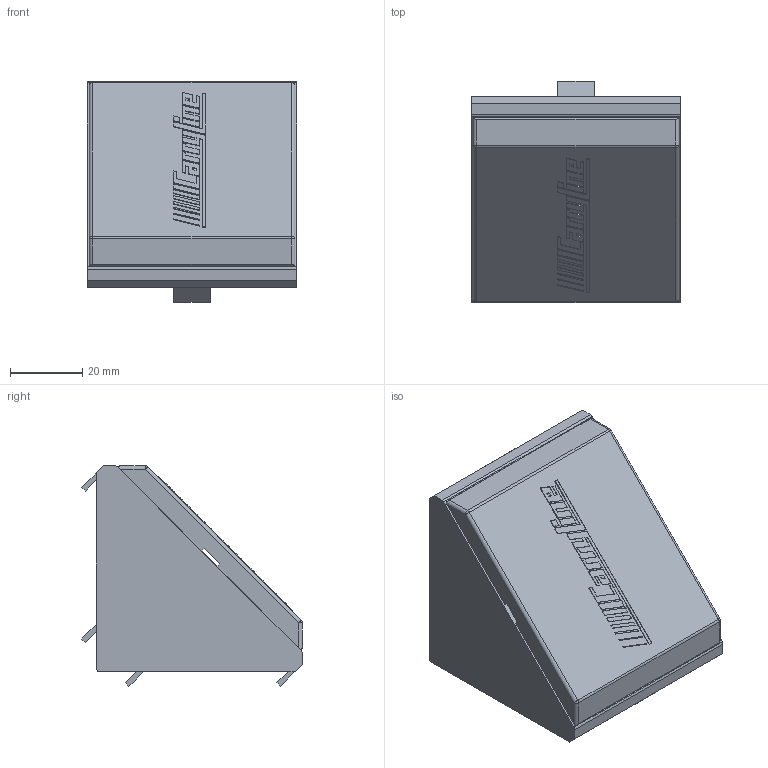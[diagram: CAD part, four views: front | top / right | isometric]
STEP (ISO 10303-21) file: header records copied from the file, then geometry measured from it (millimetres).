
FILE_DESCRIPTION(/* description */ ('BRACKET 100-4030 WITH COVER CAP'),/* implementation_level */ '2;1');
FILE_NAME(/* name */ '\\carryline.intra\privat\users\mathias\Desktop\Tillfälliga filer\100-4230.stp',/* time_stamp */ '2018-11-20T10:58:58+01:00',/* author */ ('PL'),/* organization */ ('CARRYLINE'),/* preprocessor_version */ 'ST-DEVELOPER v17',/* originating_system */ 'Autodesk Inventor 2018',/* authorisation */ '');
FILE_SCHEMA (('AUTOMOTIVE_DESIGN { 1 0 10303 214 3 1 1 }'));
Length unit declared in the file: millimetre
Products named in the file (3): 100-4230; 100-4030; 100-4130
Assembly tree (2 placements, depth 2):
  100-4230
    100-4030
    100-4130
Bounding box: 58 x 61.08 x 61.03 mm (x, y, z)
Volume: 54218.3 mm3; surface area: 31961.6 mm2
Topology: 2 solids, 2 shells, 354 faces, 938 edges, 616 vertices
Faces by surface type: plane 309, cylinder 37, bspline 4, sphere 4
Entity records: 10994 total; most frequent: CARTESIAN_POINT 1989, ORIENTED_EDGE 1876, DIRECTION 1730, EDGE_CURVE 938, LINE 856, VECTOR 856, VERTEX_POINT 616, AXIS2_PLACEMENT_3D 437
